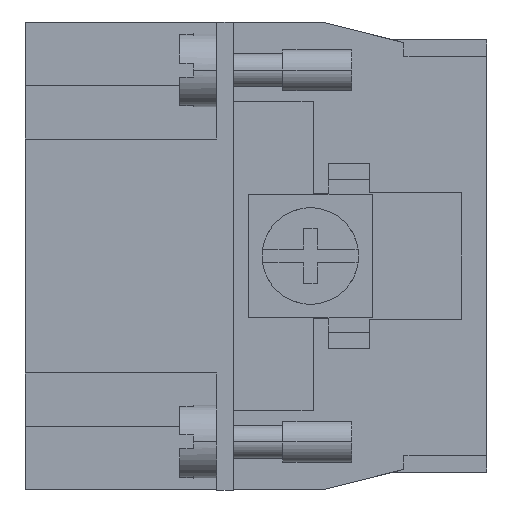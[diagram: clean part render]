
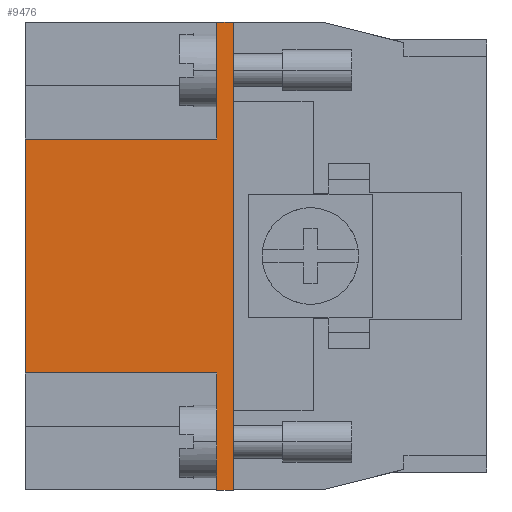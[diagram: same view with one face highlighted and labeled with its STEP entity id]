
A CAD part, left-side view. The second image highlights one B-rep face of the part: STEP entity #9476.
In plain terms, the highlighted planar face has unit normal (-1, 0, 0).
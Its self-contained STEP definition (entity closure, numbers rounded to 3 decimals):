
#579 = ORIENTED_EDGE ( 'NONE', *, *, #5692, .T. ) ;
#702 = LINE ( 'NONE', #1698, #4311 ) ;
#1288 = EDGE_CURVE ( 'NONE', #16715, #1436, #13034, .T. ) ;
#1319 = VECTOR ( 'NONE', #3657, 1000. ) ;
#1382 = VERTEX_POINT ( 'NONE', #12510 ) ;
#1436 = VERTEX_POINT ( 'NONE', #15158 ) ;
#1470 = VERTEX_POINT ( 'NONE', #15620 ) ;
#1614 = ORIENTED_EDGE ( 'NONE', *, *, #7123, .F. ) ;
#1698 = CARTESIAN_POINT ( 'NONE',  ( -42.5, -15.1, -8.5 ) ) ;
#2157 = LINE ( 'NONE', #7841, #2368 ) ;
#2347 = DIRECTION ( 'NONE',  ( 0., 0., 1. ) ) ;
#2368 = VECTOR ( 'NONE', #14673, 1000. ) ;
#2557 = ORIENTED_EDGE ( 'NONE', *, *, #5785, .T. ) ;
#3657 = DIRECTION ( 'NONE',  ( 0., 1., 0. ) ) ;
#3912 = VERTEX_POINT ( 'NONE', #12397 ) ;
#4122 = DIRECTION ( 'NONE',  ( 0., 0., -1. ) ) ;
#4311 = VECTOR ( 'NONE', #5478, 1000. ) ;
#4538 = VERTEX_POINT ( 'NONE', #14387 ) ;
#4738 = VECTOR ( 'NONE', #16069, 1000. ) ;
#5001 = FACE_OUTER_BOUND ( 'NONE', #8014, .T. ) ;
#5286 = EDGE_CURVE ( 'NONE', #1470, #1436, #6420, .T. ) ;
#5478 = DIRECTION ( 'NONE',  ( 0., 0., 1. ) ) ;
#5692 = EDGE_CURVE ( 'NONE', #6933, #3912, #14758, .T. ) ;
#5761 = LINE ( 'NONE', #17187, #1319 ) ;
#5785 = EDGE_CURVE ( 'NONE', #3912, #15338, #702, .T. ) ;
#6135 = DIRECTION ( 'NONE',  ( 1., 0., 0. ) ) ;
#6240 = AXIS2_PLACEMENT_3D ( 'NONE', #7436, #6135, #16946 ) ;
#6420 = LINE ( 'NONE', #6800, #6628 ) ;
#6533 = EDGE_CURVE ( 'NONE', #4538, #1470, #5761, .T. ) ;
#6540 = LINE ( 'NONE', #15053, #10796 ) ;
#6628 = VECTOR ( 'NONE', #4122, 1000. ) ;
#6800 = CARTESIAN_POINT ( 'NONE',  ( -42.5, 0., -8.5 ) ) ;
#6933 = VERTEX_POINT ( 'NONE', #9996 ) ;
#7115 = DIRECTION ( 'NONE',  ( 0., -1., 0. ) ) ;
#7123 = EDGE_CURVE ( 'NONE', #6933, #16715, #2157, .T. ) ;
#7436 = CARTESIAN_POINT ( 'NONE',  ( -42.5, -36.501, -8.5 ) ) ;
#7654 = PLANE ( 'NONE',  #6240 ) ;
#7841 = CARTESIAN_POINT ( 'NONE',  ( -42.5, -13.9, 17. ) ) ;
#8014 = EDGE_LOOP ( 'NONE', ( #2557, #9260, #8472, #16300, #10348, #13696, #1614, #579 ) ) ;
#8472 = ORIENTED_EDGE ( 'NONE', *, *, #15589, .F. ) ;
#8816 = LINE ( 'NONE', #8963, #14609 ) ;
#8963 = CARTESIAN_POINT ( 'NONE',  ( -42.5, -13.9, 17. ) ) ;
#9260 = ORIENTED_EDGE ( 'NONE', *, *, #13926, .F. ) ;
#9354 = VECTOR ( 'NONE', #9761, 1000. ) ;
#9476 = ADVANCED_FACE ( 'NONE', ( #5001 ), #7654, .F. ) ;
#9709 = CARTESIAN_POINT ( 'NONE',  ( -42.5, -36.501, -8.5 ) ) ;
#9761 = DIRECTION ( 'NONE',  ( 0., 1., 0. ) ) ;
#9996 = CARTESIAN_POINT ( 'NONE',  ( -42.5, -13.9, -17. ) ) ;
#10348 = ORIENTED_EDGE ( 'NONE', *, *, #5286, .T. ) ;
#10796 = VECTOR ( 'NONE', #7115, 1000. ) ;
#12397 = CARTESIAN_POINT ( 'NONE',  ( -42.5, -15.1, -17. ) ) ;
#12510 = CARTESIAN_POINT ( 'NONE',  ( -42.5, -13.9, 17. ) ) ;
#13034 = LINE ( 'NONE', #9709, #9354 ) ;
#13673 = CARTESIAN_POINT ( 'NONE',  ( -42.5, -13.9, -17. ) ) ;
#13696 = ORIENTED_EDGE ( 'NONE', *, *, #1288, .F. ) ;
#13926 = EDGE_CURVE ( 'NONE', #1382, #15338, #6540, .T. ) ;
#14387 = CARTESIAN_POINT ( 'NONE',  ( -42.5, -13.9, 8.5 ) ) ;
#14609 = VECTOR ( 'NONE', #2347, 1000. ) ;
#14673 = DIRECTION ( 'NONE',  ( 0., 0., 1. ) ) ;
#14758 = LINE ( 'NONE', #13673, #4738 ) ;
#14956 = CARTESIAN_POINT ( 'NONE',  ( -42.5, -15.1, 17. ) ) ;
#15053 = CARTESIAN_POINT ( 'NONE',  ( -42.5, -13.9, 17. ) ) ;
#15158 = CARTESIAN_POINT ( 'NONE',  ( -42.5, 0., -8.5 ) ) ;
#15338 = VERTEX_POINT ( 'NONE', #14956 ) ;
#15589 = EDGE_CURVE ( 'NONE', #4538, #1382, #8816, .T. ) ;
#15620 = CARTESIAN_POINT ( 'NONE',  ( -42.5, 0., 8.5 ) ) ;
#16069 = DIRECTION ( 'NONE',  ( 0., -1., 0. ) ) ;
#16300 = ORIENTED_EDGE ( 'NONE', *, *, #6533, .T. ) ;
#16715 = VERTEX_POINT ( 'NONE', #17030 ) ;
#16946 = DIRECTION ( 'NONE',  ( 0., 1., 0. ) ) ;
#17030 = CARTESIAN_POINT ( 'NONE',  ( -42.5, -13.9, -8.5 ) ) ;
#17187 = CARTESIAN_POINT ( 'NONE',  ( -42.5, -36.501, 8.5 ) ) ;
